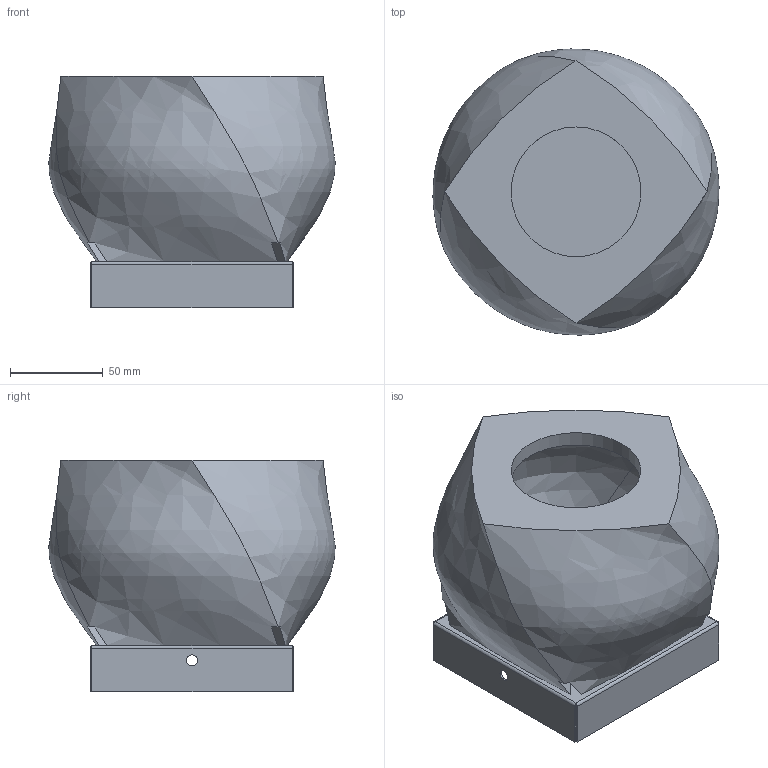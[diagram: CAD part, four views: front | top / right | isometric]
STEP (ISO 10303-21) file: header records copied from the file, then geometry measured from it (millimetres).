
FILE_DESCRIPTION( ( 'STEP AP203' ), '1' );
FILE_NAME( '//srvbf/BF Disegni/ARRIGHI FRANCESCA/AUREA/AUREA-Q-A Applique-Plafone 3D.stp', '2020-10-16T06:22:37', ( ' ' ), ( ' ' ), 'XStep 1.0', ' ', ' ' );
FILE_SCHEMA( ( 'CONFIG_CONTROL_DESIGN) ( )' ) );
Length unit declared in the file: metre
Products named in the file (3): Assem1; 1; 2
Bounding box: 154.3 x 154.3 x 125 mm (x, y, z)
Volume: 848057.9 mm3; surface area: 304052.5 mm2
Topology: 4 solids, 4 shells, 146 faces, 372 edges, 234 vertices
Faces by surface type: plane 84, cylinder 30, extrusion 16, bspline 8, offset 8
Full cylindrical faces by diameter (mm): 5 x8, 6 x4, 70 x2
Entity records: 3732 total; most frequent: CARTESIAN_POINT 1954, ORIENTED_EDGE 348, DIRECTION 296, EDGE_CURVE 174, VERTEX_POINT 112, AXIS2_PLACEMENT_3D 106, EDGE_LOOP 94, VECTOR 84
